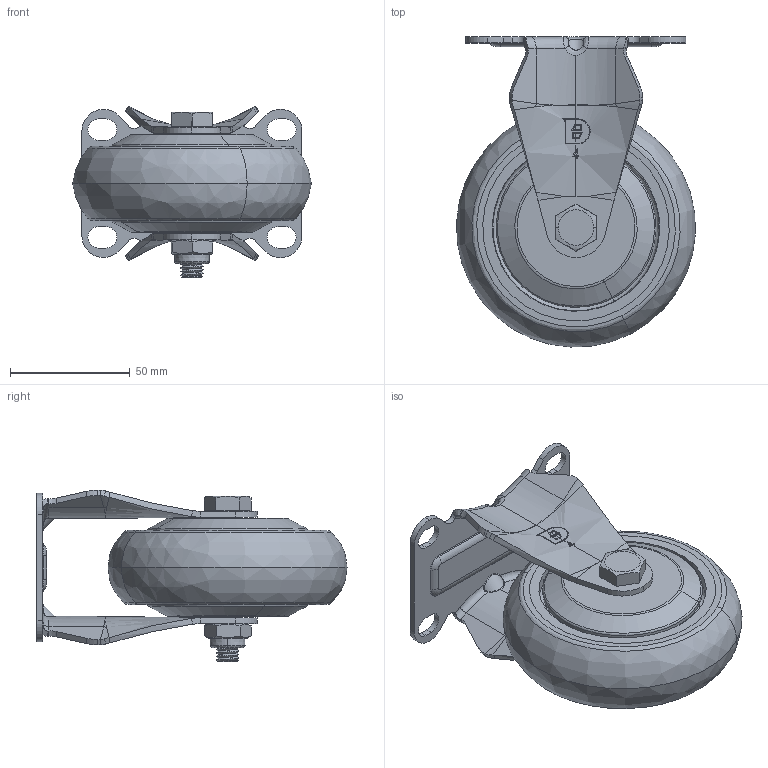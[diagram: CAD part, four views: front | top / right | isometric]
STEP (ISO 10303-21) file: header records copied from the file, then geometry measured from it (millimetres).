
FILE_DESCRIPTION (( 'STEP AP203' ), '1' );
FILE_NAME ('11390400601033(02).STEP', '2025-03-24T05:13:04', ( '20241006' ), ( '' ), 'SwSTEP 2.0', 'SolidWorks 2021', '' );
FILE_SCHEMA (( 'CONFIG_CONTROL_DESIGN' ));
Length unit declared in the file: millimetre
Products named in the file (5): ____M10__A_O^39____4______W______.STEP.STEP; 11390400601033(02); 50__________A_O^39____4______W______.STEP.STEP; 414AQPU_蕼偞; 4''''''''''''''''39__________-______A_O^39____4______W______.STEP.STEP
Assembly tree (4 placements, depth 2):
  11390400601033(02)
    4''''''''''''''''39__________-______A_O^39____4______W______.STEP.STEP
    50__________A_O^39____4______W______.STEP.STEP
    ____M10__A_O^39____4______W______.STEP.STEP
    414AQPU_蕼偞
Bounding box: 99.9 x 129.65 x 71.85 mm (x, y, z)
Volume: 250603 mm3; surface area: 76294.3 mm2
Topology: 6 solids, 6 shells, 444 faces, 1089 edges, 647 vertices
Faces by surface type: bspline 139, plane 117, cylinder 107, cone 49, torus 32
Entity records: 21580 total; most frequent: CARTESIAN_POINT 11805, ORIENTED_EDGE 2124, DIRECTION 1650, EDGE_CURVE 1062, VERTEX_POINT 647, AXIS2_PLACEMENT_3D 644, EDGE_LOOP 481, ADVANCED_FACE 444
